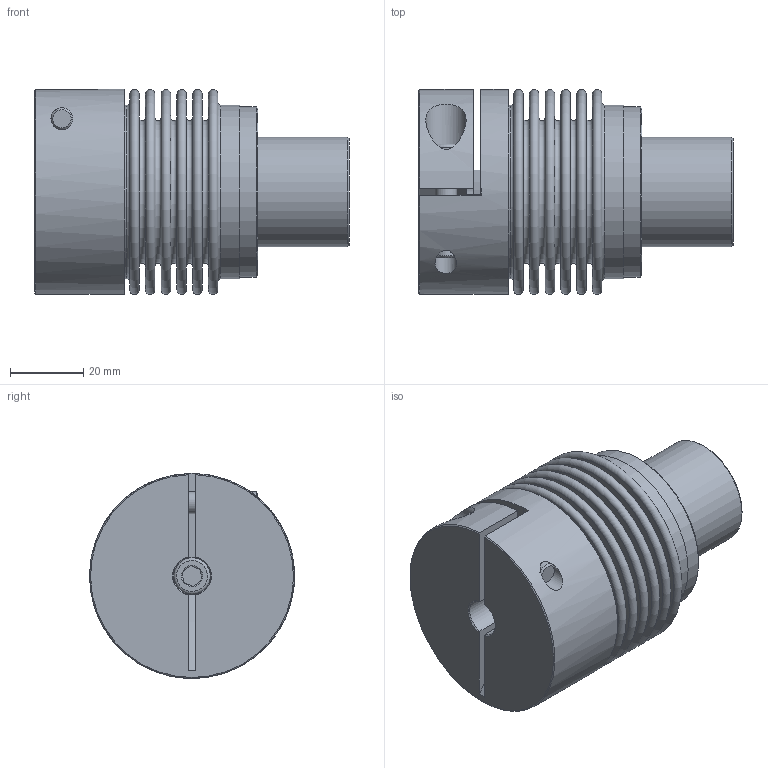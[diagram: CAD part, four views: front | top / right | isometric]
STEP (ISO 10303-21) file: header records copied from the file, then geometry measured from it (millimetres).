
FILE_DESCRIPTION( ( 'Unknown' ), '1' );
FILE_NAME( 'K:/Konstruktion/KB8/HP/KB8-30-61.stp', 'Unknown', ( 'Unknown' ), ( 'Unknown' ), 'PSStep 16.0.42', 'Unknown', ' ' );
FILE_SCHEMA( ( 'AUTOMOTIVE_DESIGN { 1 0 10303 214 1 1 1 1 }' ) );
Length unit declared in the file: millimetre
Products named in the file (5): Assem1; BL30_Standard_0; KN30_Standard_1-D16; Spreiznabe30; ISO EN DIN 4762 M6x25
Assembly tree (5 placements, depth 2):
  Assem1
    BL30_Standard_0
    KN30_Standard_1-D16
    Spreiznabe30
    ISO EN DIN 4762 M6x25  x2
Bounding box: 86 x 55.99 x 55.99 mm (x, y, z)
Volume: 96922.6 mm3; surface area: 59019.4 mm2
Topology: 5 solids, 5 shells, 140 faces, 254 edges, 159 vertices
Faces by surface type: plane 66, torus 28, cylinder 26, cone 20
Full cylindrical faces by diameter (mm): 5 x2, 6 x5, 6.4 x1, 6.5 x1, 10 x3, 11 x2, 30 x1, 45.7 x1, 46.5 x3, 47.3 x2, 56 x1
Entity records: 3749 total; most frequent: CARTESIAN_POINT 618, DIRECTION 481, ORIENTED_EDGE 304, AXIS2_PLACEMENT_3D 225, EDGE_LOOP 202, FACE_OUTER_BOUND 157, EDGE_CURVE 152, VERTEX_POINT 138
